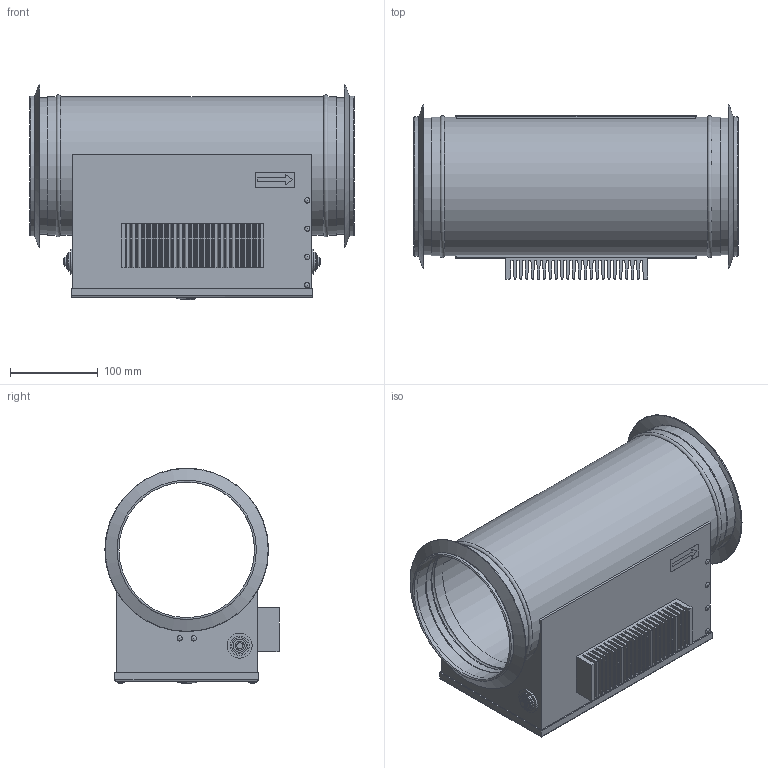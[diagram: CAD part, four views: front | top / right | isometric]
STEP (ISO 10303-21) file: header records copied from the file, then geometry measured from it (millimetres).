
FILE_DESCRIPTION(/* description */ (''),/* implementation_level */ '2;1');
FILE_NAME(/* name */ 'C:\WF Home\Thomas Mønsted\01 - Ventilation\Ventmatica\063221 - 230V Ø160 modulerende 12-230 V - _max. 1800 watt.stp',/* time_stamp */ '2020-05-14T13:39:45+02:00',/* author */ ('3113thmo'),/* organization */ (''),/* preprocessor_version */ 'ST-DEVELOPER v16.13',/* originating_system */ 'Autodesk Inventor 2018',/* authorisation */ '');
FILE_SCHEMA (('AUTOMOTIVE_DESIGN { 1 0 10303 214 3 1 1 }'));
Length unit declared in the file: millimetre
Products named in the file (1): 063221 - 230V Ø160 modulerende 12-230 V - _max. 1800 watt
Bounding box: 369.99 x 198.74 x 246.27 mm (x, y, z)
Volume: 4204357.1 mm3; surface area: 557302.5 mm2
Topology: 2 solids, 4 shells, 485 faces, 1275 edges, 847 vertices
Faces by surface type: plane 293, cylinder 104, bspline 74, cone 6, torus 6, sphere 2
Full cylindrical faces by diameter (mm): 4 x2, 7 x2, 7.5 x2, 8.2 x2, 10 x1, 10.5 x2, 12 x3, 15 x4, 18 x2, 19 x2, 19.8 x2, 22 x2, 28.5 x2, 154.6 x2, 156 x2, 156.6 x3, 158 x5, 159 x2
Entity records: 17228 total; most frequent: CARTESIAN_POINT 5138, ORIENTED_EDGE 2420, DIRECTION 2328, EDGE_CURVE 1210, VERTEX_POINT 846, AXIS2_PLACEMENT_3D 835, LINE 658, VECTOR 658
